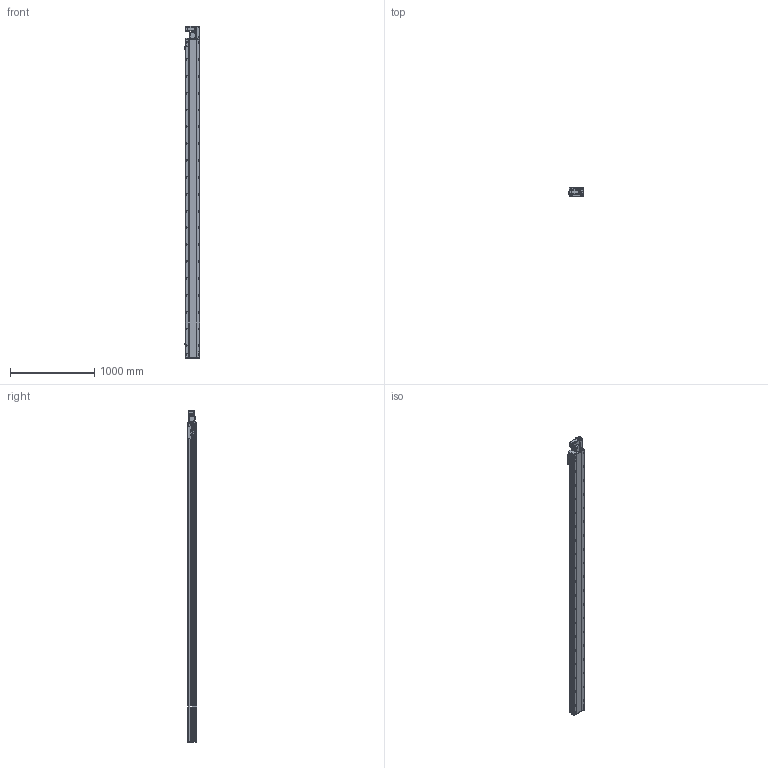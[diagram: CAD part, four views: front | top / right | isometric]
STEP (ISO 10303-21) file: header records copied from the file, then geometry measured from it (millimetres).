
FILE_DESCRIPTION (( 'STEP AP214' ), '1' );
FILE_NAME ('RTB17S-XX-3500-R-M40-C4.STEP', '2025-12-11T08:01:40', ( '' ), ( '' ), 'SwSTEP 2.0', 'SolidWorks 2018', '' );
FILE_SCHEMA (( 'AUTOMOTIVE_DESIGN' ));
Length unit declared in the file: millimetre
Products named in the file (14): RTB17S-L-004佪裝蹟譫蟀諉釱^RTB17S-XX-XX-R-M40-C4; RTH13-BL-012覜茼え俋离^RTB17S-XX-XX-R-M40-C4; RTB17S-L-014-T20--々湍釱^RTB17S-R-々湍釱蚾饜-400W_RTB17S-XX-XX-R-M40-C4; RTB17S-L-001耜醱啣^RTB17S-XX-XX-R-M40-C4; OMRON EE-SX672 传感器^RTB17S-XX-XX-R-M40-C4; RTB17S-R-々湍釱蚾饜-400W^RTB17S-XX-XX-R-M40-C4; 400W侜督萇儂^RTB17S-XX-XX-R-M40-C4; RTB17-R-011菁釱^RTB17S-XX-XX-R-M40-C4; RTB17S-L-007奻裔^RTB17S-XX-XX-R-M40-C4; RTB14-L-008-M20--萇儂啣^RTB17S-R-々湍釱蚾饜-400W_RTB17S-XX-XX-R-M40-C4; RTB14-L-005P--轴承塑胶压盖^RTB17S-R-皮带座装配-400W_RTB17S-XX-XX-R-M40-C4; RTB17S-XX-3500-R-M40-C4; RTB14-L-018P^RTB17S-R-々湍釱蚾饜-400W_RTB17S-XX-XX-R-M40-C4; RTB14-L-017P^RTB17S-R-々湍釱蚾饜-400W_RTB17S-XX-XX-R-M40-C4
Assembly tree (16 placements, depth 3):
  RTB17S-XX-3500-R-M40-C4
    RTB17-R-011菁釱^RTB17S-XX-XX-R-M40-C4
    RTB17S-L-007奻裔^RTB17S-XX-XX-R-M40-C4
    OMRON EE-SX672 传感器^RTB17S-XX-XX-R-M40-C4  x3
    RTB17S-L-001耜醱啣^RTB17S-XX-XX-R-M40-C4
    400W侜督萇儂^RTB17S-XX-XX-R-M40-C4
    RTB17S-L-004佪裝蹟譫蟀諉釱^RTB17S-XX-XX-R-M40-C4
    RTH13-BL-012覜茼え俋离^RTB17S-XX-XX-R-M40-C4
    RTB17S-R-々湍釱蚾饜-400W^RTB17S-XX-XX-R-M40-C4
      RTB17S-L-014-T20--々湍釱^RTB17S-R-々湍釱蚾饜-400W_RTB17S-XX-XX-R-M40-C4
      RTB14-L-005P--轴承塑胶压盖^RTB17S-R-皮带座装配-400W_RTB17S-XX-XX-R-M40-C4
      RTB14-L-008-M20--萇儂啣^RTB17S-R-々湍釱蚾饜-400W_RTB17S-XX-XX-R-M40-C4
      RTB14-L-017P^RTB17S-R-々湍釱蚾饜-400W_RTB17S-XX-XX-R-M40-C4  x2
      RTB14-L-018P^RTB17S-R-々湍釱蚾饜-400W_RTB17S-XX-XX-R-M40-C4
Bounding box: 183.5 x 108 x 3941 mm (x, y, z)
Volume: 32759005.9 mm3; surface area: 3722192.6 mm2
Topology: 15 solids, 15 shells, 2413 faces, 6789 edges, 4437 vertices
Faces by surface type: plane 1094, cylinder 871, bspline 301, cone 139, torus 8
Entity records: 72617 total; most frequent: CARTESIAN_POINT 20794, ORIENTED_EDGE 10422, DIRECTION 9566, EDGE_CURVE 5211, VERTEX_POINT 3425, AXIS2_PLACEMENT_3D 3355, LINE 2856, VECTOR 2856
